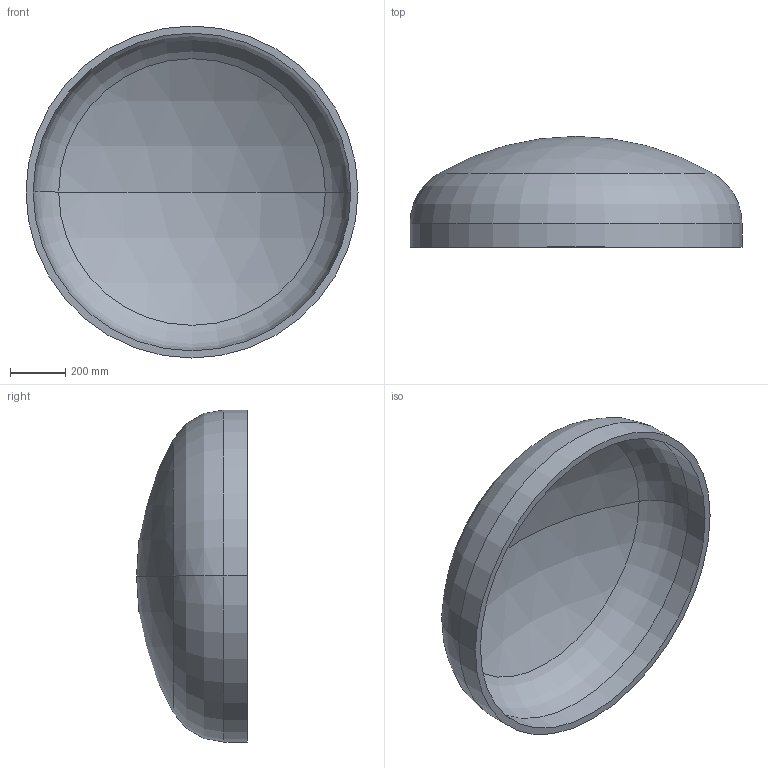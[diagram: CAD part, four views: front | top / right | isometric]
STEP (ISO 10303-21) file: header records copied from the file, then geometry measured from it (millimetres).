
FILE_DESCRIPTION (( 'STEP AP203' ), '1' );
FILE_NAME ('DIN 28013 Korbbogenform_-_Boden DIN 28013 - 1200 x 85 - I - s=26.step', '2016-07-01T09:24:39', ( '' ), ( '' ), 'SwSTEP 2.0', 'SolidWorks 2013', '' );
FILE_SCHEMA (( 'CONFIG_CONTROL_DESIGN' ));
Length unit declared in the file: millimetre
Products named in the file (1): DIN 28013 Korbbogenform_-_Boden DIN 28013 - 1200 x 85 - I - s=26
Bounding box: 1200 x 400.7 x 1200 mm (x, y, z)
Volume: 47741517.5 mm3; surface area: 3769733.1 mm2
Topology: 1 solids, 1 shells, 13 faces, 24 edges, 14 vertices
Faces by surface type: torus 4, cylinder 4, sphere 4, plane 1
Entity records: 407 total; most frequent: DIRECTION 72, CARTESIAN_POINT 52, ORIENTED_EDGE 48, AXIS2_PLACEMENT_3D 34, EDGE_CURVE 24, CIRCLE 20, EDGE_LOOP 14, VERTEX_POINT 14
